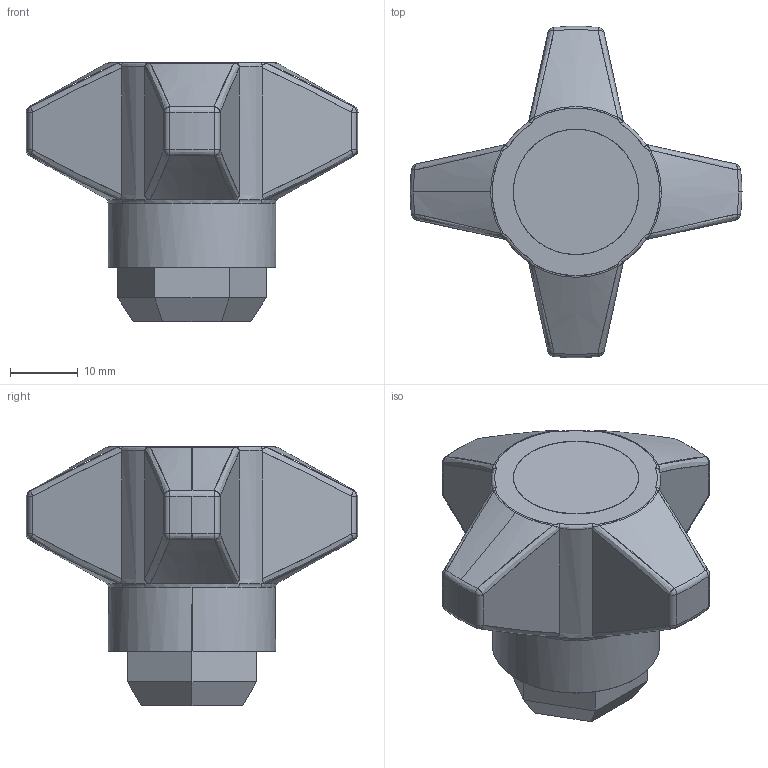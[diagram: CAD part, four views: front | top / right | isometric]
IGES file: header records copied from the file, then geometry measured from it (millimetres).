
Start section: SolidWorks IGES file using analytic representation for surfaces
Global section: file name: C:\Documents and Settings\URETIM3\Desktop\katalog 3 boyutlar tolgay\yeni katalog tolgay\B kataloðu\DÝÞÝ TUTGAÇLAR\210 D06 124.IGS; native system: SolidWorks 2006 by SolidWorks Corporation; preprocessor: SolidWorks 2006 by SolidWorks Corporation; author: URETIM3; date: 061114.110754; units: millimetre
Bounding box: 49 x 48.95 x 38.25 mm (x, y, z)
Surface area: 6075.8 mm2 (no closed solid volume)
Topology: 0 solids, 0 shells, 158 faces, 1442 edges, 1442 vertices
Faces by surface type: bspline 80, revolution 78
